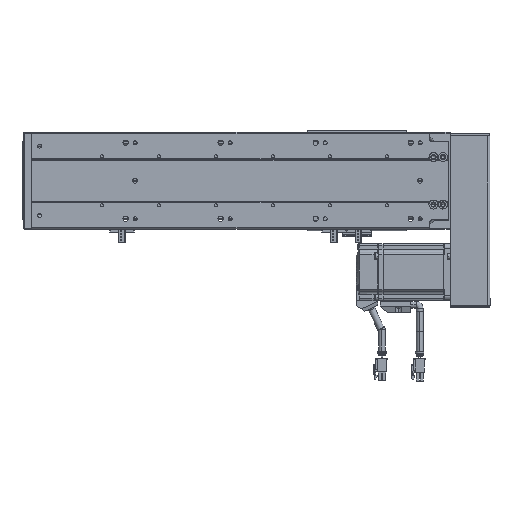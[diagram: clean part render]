
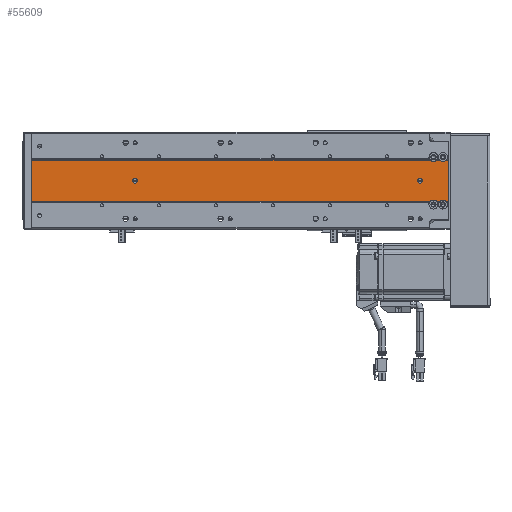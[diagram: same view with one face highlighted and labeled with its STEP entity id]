
A CAD part, front view. The second image highlights one B-rep face of the part: STEP entity #55609.
In plain terms, the highlighted planar face has unit normal (0, -1, 0).
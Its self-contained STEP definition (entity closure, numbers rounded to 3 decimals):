
#3452 = EDGE_LOOP ( 'NONE', ( #39523, #39520 ) ) ;
#8980 = VERTEX_POINT ( 'NONE', #58842 ) ;
#8999 = VERTEX_POINT ( 'NONE', #58932 ) ;
#9008 = VERTEX_POINT ( 'NONE', #58855 ) ;
#9019 = VERTEX_POINT ( 'NONE', #59000 ) ;
#9025 = VERTEX_POINT ( 'NONE', #59055 ) ;
#9042 = VERTEX_POINT ( 'NONE', #59018 ) ;
#9059 = VERTEX_POINT ( 'NONE', #58958 ) ;
#9500 = VERTEX_POINT ( 'NONE', #71768 ) ;
#9920 = AXIS2_PLACEMENT_3D ( 'NONE', #50666, #50668, #50726 ) ;
#17101 = EDGE_CURVE ( 'NONE', #21748, #21724, #86244, .T. ) ;
#17127 = EDGE_CURVE ( 'NONE', #21820, #21841, #86268, .T. ) ;
#17177 = EDGE_CURVE ( 'NONE', #21850, #21859, #85761, .T. ) ;
#17263 = EDGE_CURVE ( 'NONE', #9042, #8999, #25217, .T. ) ;
#17285 = EDGE_CURVE ( 'NONE', #9025, #8980, #25274, .T. ) ;
#17288 = EDGE_CURVE ( 'NONE', #9019, #9059, #25530, .T. ) ;
#17760 = EDGE_CURVE ( 'NONE', #21859, #21850, #75053, .T. ) ;
#17763 = EDGE_CURVE ( 'NONE', #8980, #21740, #75067, .T. ) ;
#17788 = EDGE_CURVE ( 'NONE', #21841, #21820, #75080, .T. ) ;
#17789 = EDGE_CURVE ( 'NONE', #9500, #9019, #75131, .T. ) ;
#17798 = EDGE_CURVE ( 'NONE', #9059, #9042, #75154, .T. ) ;
#17805 = EDGE_CURVE ( 'NONE', #9025, #9500, #75180, .T. ) ;
#17807 = EDGE_CURVE ( 'NONE', #8999, #9008, #75187, .T. ) ;
#21719 = VERTEX_POINT ( 'NONE', #60861 ) ;
#21724 = VERTEX_POINT ( 'NONE', #60884 ) ;
#21740 = VERTEX_POINT ( 'NONE', #60876 ) ;
#21748 = VERTEX_POINT ( 'NONE', #60889 ) ;
#21820 = VERTEX_POINT ( 'NONE', #60920 ) ;
#21841 = VERTEX_POINT ( 'NONE', #60939 ) ;
#21850 = VERTEX_POINT ( 'NONE', #60968 ) ;
#21859 = VERTEX_POINT ( 'NONE', #60976 ) ;
#25217 = LINE ( 'NONE', #57473, #25306 ) ;
#25274 = LINE ( 'NONE', #57647, #25366 ) ;
#25306 = VECTOR ( 'NONE', #57543, 1000. ) ;
#25366 = VECTOR ( 'NONE', #57659, 1000. ) ;
#25530 = LINE ( 'NONE', #57695, #25610 ) ;
#25610 = VECTOR ( 'NONE', #57756, 1000. ) ;
#27994 = PLANE ( 'NONE',  #63248 ) ;
#28056 = CARTESIAN_POINT ( 'NONE',  ( 161.989, 89.548, 439. ) ) ;
#28109 = DIRECTION ( 'NONE',  ( 0., 1., 0. ) ) ;
#28140 = DIRECTION ( 'NONE',  ( -1., 0., 0. ) ) ;
#29854 = FACE_OUTER_BOUND ( 'NONE', #95266, .T. ) ;
#29871 = FACE_BOUND ( 'NONE', #3452, .T. ) ;
#29892 = FACE_BOUND ( 'NONE', #95312, .T. ) ;
#37486 = VECTOR ( 'NONE', #77299, 1000. ) ;
#37510 = LINE ( 'NONE', #77256, #37486 ) ;
#37540 = LINE ( 'NONE', #77570, #37555 ) ;
#37555 = VECTOR ( 'NONE', #77536, 1000. ) ;
#39519 = ORIENTED_EDGE ( 'NONE', *, *, #17127, .F. ) ;
#39520 = ORIENTED_EDGE ( 'NONE', *, *, #17177, .F. ) ;
#39523 = ORIENTED_EDGE ( 'NONE', *, *, #17760, .F. ) ;
#39539 = ORIENTED_EDGE ( 'NONE', *, *, #88156, .F. ) ;
#39541 = ORIENTED_EDGE ( 'NONE', *, *, #17788, .F. ) ;
#39556 = ORIENTED_EDGE ( 'NONE', *, *, #17763, .F. ) ;
#39561 = ORIENTED_EDGE ( 'NONE', *, *, #17285, .F. ) ;
#39564 = ORIENTED_EDGE ( 'NONE', *, *, #91125, .T. ) ;
#39593 = ORIENTED_EDGE ( 'NONE', *, *, #17288, .T. ) ;
#39601 = ORIENTED_EDGE ( 'NONE', *, *, #17807, .T. ) ;
#39641 = ORIENTED_EDGE ( 'NONE', *, *, #88191, .F. ) ;
#39690 = ORIENTED_EDGE ( 'NONE', *, *, #17789, .T. ) ;
#39692 = ORIENTED_EDGE ( 'NONE', *, *, #17101, .T. ) ;
#39726 = ORIENTED_EDGE ( 'NONE', *, *, #17798, .T. ) ;
#39752 = ORIENTED_EDGE ( 'NONE', *, *, #17263, .T. ) ;
#39753 = ORIENTED_EDGE ( 'NONE', *, *, #17805, .T. ) ;
#50666 = CARTESIAN_POINT ( 'NONE',  ( 165.403, 89.548, 433. ) ) ;
#50668 = DIRECTION ( 'NONE',  ( 0., 1., 0. ) ) ;
#50726 = DIRECTION ( 'NONE',  ( -1., 0., 0. ) ) ;
#55609 = ADVANCED_FACE ( 'NONE', ( #29871, #29892, #29854 ), #27994, .F. ) ;
#57473 = CARTESIAN_POINT ( 'NONE',  ( 118.817, 89.548, 439. ) ) ;
#57543 = DIRECTION ( 'NONE',  ( 0., 0., -1. ) ) ;
#57647 = CARTESIAN_POINT ( 'NONE',  ( 161.989, 89.548, 439. ) ) ;
#57659 = DIRECTION ( 'NONE',  ( 1., 0., 0. ) ) ;
#57695 = CARTESIAN_POINT ( 'NONE',  ( 118.817, 89.548, 439. ) ) ;
#57756 = DIRECTION ( 'NONE',  ( 0., 0., -1. ) ) ;
#58842 = CARTESIAN_POINT ( 'NONE',  ( 161.989, 89.548, 439. ) ) ;
#58855 = CARTESIAN_POINT ( 'NONE',  ( 161.989, 89.548, 0. ) ) ;
#58932 = CARTESIAN_POINT ( 'NONE',  ( 118.817, 89.548, 0. ) ) ;
#58958 = CARTESIAN_POINT ( 'NONE',  ( 118.817, 89.548, 426.302 ) ) ;
#59000 = CARTESIAN_POINT ( 'NONE',  ( 118.817, 89.548, 429.698 ) ) ;
#59018 = CARTESIAN_POINT ( 'NONE',  ( 118.817, 89.548, 419.698 ) ) ;
#59055 = CARTESIAN_POINT ( 'NONE',  ( 118.817, 89.548, 439. ) ) ;
#60861 = CARTESIAN_POINT ( 'NONE',  ( 161.989, 89.548, 429.698 ) ) ;
#60876 = CARTESIAN_POINT ( 'NONE',  ( 161.989, 89.548, 436.302 ) ) ;
#60884 = CARTESIAN_POINT ( 'NONE',  ( 161.989, 89.548, 426.302 ) ) ;
#60889 = CARTESIAN_POINT ( 'NONE',  ( 161.989, 89.548, 419.698 ) ) ;
#60920 = CARTESIAN_POINT ( 'NONE',  ( 137.903, 89.548, 109. ) ) ;
#60939 = CARTESIAN_POINT ( 'NONE',  ( 142.903, 89.548, 109. ) ) ;
#60968 = CARTESIAN_POINT ( 'NONE',  ( 137.903, 89.548, 409. ) ) ;
#60976 = CARTESIAN_POINT ( 'NONE',  ( 142.903, 89.548, 409. ) ) ;
#63248 = AXIS2_PLACEMENT_3D ( 'NONE', #28056, #28109, #28140 ) ;
#64414 = DIRECTION ( 'NONE',  ( 0., 0., -1. ) ) ;
#64440 = CARTESIAN_POINT ( 'NONE',  ( 118.817, 89.548, 439. ) ) ;
#64442 = DIRECTION ( 'NONE',  ( 1., 0., 0. ) ) ;
#64492 = CARTESIAN_POINT ( 'NONE',  ( 161.989, 89.548, 0. ) ) ;
#71768 = CARTESIAN_POINT ( 'NONE',  ( 118.817, 89.548, 436.302 ) ) ;
#75053 = CIRCLE ( 'NONE', #100114, 2.5 ) ;
#75065 = VECTOR ( 'NONE', #79764, 1000. ) ;
#75067 = LINE ( 'NONE', #79768, #75065 ) ;
#75080 = CIRCLE ( 'NONE', #100124, 2.5 ) ;
#75131 = CIRCLE ( 'NONE', #100107, 4.75 ) ;
#75154 = CIRCLE ( 'NONE', #100127, 4.75 ) ;
#75158 = VECTOR ( 'NONE', #64442, 1000. ) ;
#75173 = VECTOR ( 'NONE', #64414, 1000. ) ;
#75180 = LINE ( 'NONE', #64440, #75173 ) ;
#75187 = LINE ( 'NONE', #64492, #75158 ) ;
#77256 = CARTESIAN_POINT ( 'NONE',  ( 161.989, 89.548, 439. ) ) ;
#77299 = DIRECTION ( 'NONE',  ( 0., 0., -1. ) ) ;
#77536 = DIRECTION ( 'NONE',  ( 0., 0., -1. ) ) ;
#77570 = CARTESIAN_POINT ( 'NONE',  ( 161.989, 89.548, 439. ) ) ;
#79002 = CARTESIAN_POINT ( 'NONE',  ( 115.403, 89.548, 423. ) ) ;
#79018 = DIRECTION ( 'NONE',  ( -1., 0., 0. ) ) ;
#79043 = CARTESIAN_POINT ( 'NONE',  ( 115.403, 89.548, 433. ) ) ;
#79045 = DIRECTION ( 'NONE',  ( 0., 1., 0. ) ) ;
#79048 = DIRECTION ( 'NONE',  ( 0., 1., 0. ) ) ;
#79055 = DIRECTION ( 'NONE',  ( -1., 0., 0. ) ) ;
#79062 = CARTESIAN_POINT ( 'NONE',  ( 140.403, 89.548, 109. ) ) ;
#79072 = DIRECTION ( 'NONE',  ( 0., -1., 0. ) ) ;
#79087 = DIRECTION ( 'NONE',  ( 1., 0., 0. ) ) ;
#79707 = DIRECTION ( 'NONE',  ( 0., -1., 0. ) ) ;
#79726 = DIRECTION ( 'NONE',  ( 1., 0., 0. ) ) ;
#79750 = CARTESIAN_POINT ( 'NONE',  ( 140.403, 89.548, 409. ) ) ;
#79764 = DIRECTION ( 'NONE',  ( 0., 0., -1. ) ) ;
#79768 = CARTESIAN_POINT ( 'NONE',  ( 161.989, 89.548, 439. ) ) ;
#81237 = DIRECTION ( 'NONE',  ( 1., 0., 0. ) ) ;
#81238 = CARTESIAN_POINT ( 'NONE',  ( 140.403, 89.548, 409. ) ) ;
#81271 = DIRECTION ( 'NONE',  ( 0., -1., 0. ) ) ;
#81448 = CARTESIAN_POINT ( 'NONE',  ( 165.403, 89.548, 423. ) ) ;
#81472 = DIRECTION ( 'NONE',  ( 0., 1., 0. ) ) ;
#81484 = DIRECTION ( 'NONE',  ( -1., 0., 0. ) ) ;
#81537 = DIRECTION ( 'NONE',  ( 1., 0., 0. ) ) ;
#81547 = DIRECTION ( 'NONE',  ( 0., -1., 0. ) ) ;
#81565 = CARTESIAN_POINT ( 'NONE',  ( 140.403, 89.548, 109. ) ) ;
#85761 = CIRCLE ( 'NONE', #99987, 2.5 ) ;
#86244 = CIRCLE ( 'NONE', #99939, 4.75 ) ;
#86268 = CIRCLE ( 'NONE', #99937, 2.5 ) ;
#88156 = EDGE_CURVE ( 'NONE', #21719, #21724, #37510, .T. ) ;
#88191 = EDGE_CURVE ( 'NONE', #21748, #9008, #37540, .T. ) ;
#91125 = EDGE_CURVE ( 'NONE', #21719, #21740, #91987, .T. ) ;
#91987 = CIRCLE ( 'NONE', #9920, 4.75 ) ;
#95266 = EDGE_LOOP ( 'NONE', ( #39539, #39564, #39556, #39561, #39753, #39690, #39593, #39726, #39752, #39601, #39641, #39692 ) ) ;
#95312 = EDGE_LOOP ( 'NONE', ( #39541, #39519 ) ) ;
#99937 = AXIS2_PLACEMENT_3D ( 'NONE', #81565, #81547, #81537 ) ;
#99939 = AXIS2_PLACEMENT_3D ( 'NONE', #81448, #81472, #81484 ) ;
#99987 = AXIS2_PLACEMENT_3D ( 'NONE', #81238, #81271, #81237 ) ;
#100107 = AXIS2_PLACEMENT_3D ( 'NONE', #79043, #79045, #79055 ) ;
#100114 = AXIS2_PLACEMENT_3D ( 'NONE', #79750, #79707, #79726 ) ;
#100124 = AXIS2_PLACEMENT_3D ( 'NONE', #79062, #79072, #79087 ) ;
#100127 = AXIS2_PLACEMENT_3D ( 'NONE', #79002, #79048, #79018 ) ;
